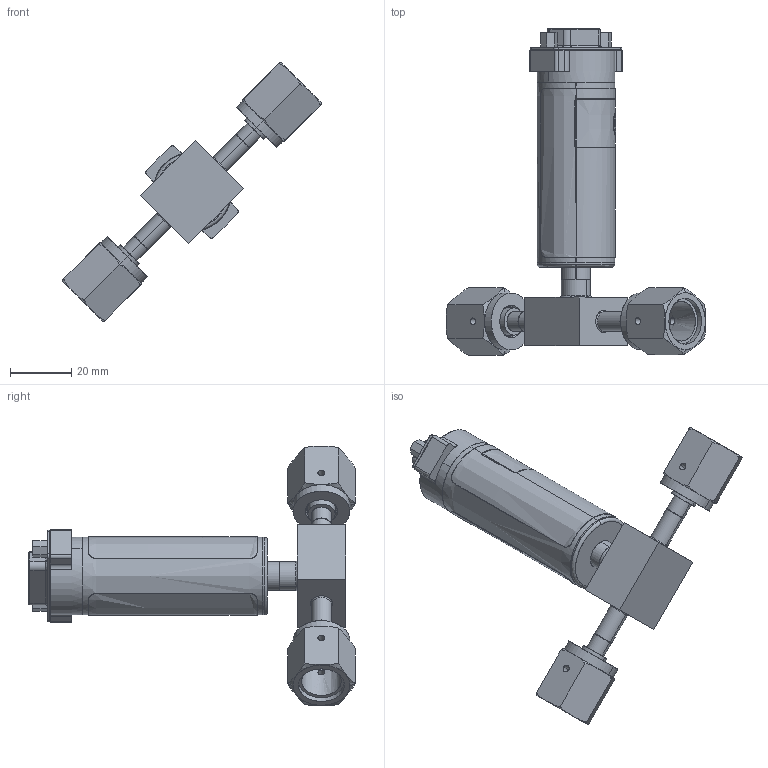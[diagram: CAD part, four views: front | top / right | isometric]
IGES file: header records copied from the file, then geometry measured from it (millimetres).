
Start section: SolidWorks IGES file using analytic representation for surfaces
Global section: file name: R:\Brooks Instrument\25-0024 SSII CAD File Generation\Client Files\SSII CAD Models for Website\CAD for Brooks Website\Example\GSF\GSF-XXXXXX-D-XXX-SF\IGES\GSF-XXXXXX-D-XXX-SF.IGS; native system: SolidWorks 2023; preprocessor: SolidWorks 2023; author: dgoddard; date: 250618.141112; units: inch
Bounding box: 84.75 x 106.55 x 84.75 mm (x, y, z)
Surface area: 25014.2 mm2 (no closed solid volume)
Topology: 0 solids, 0 shells, 495 faces, 6625 edges, 6561 vertices
Faces by surface type: revolution 267, bspline 228
